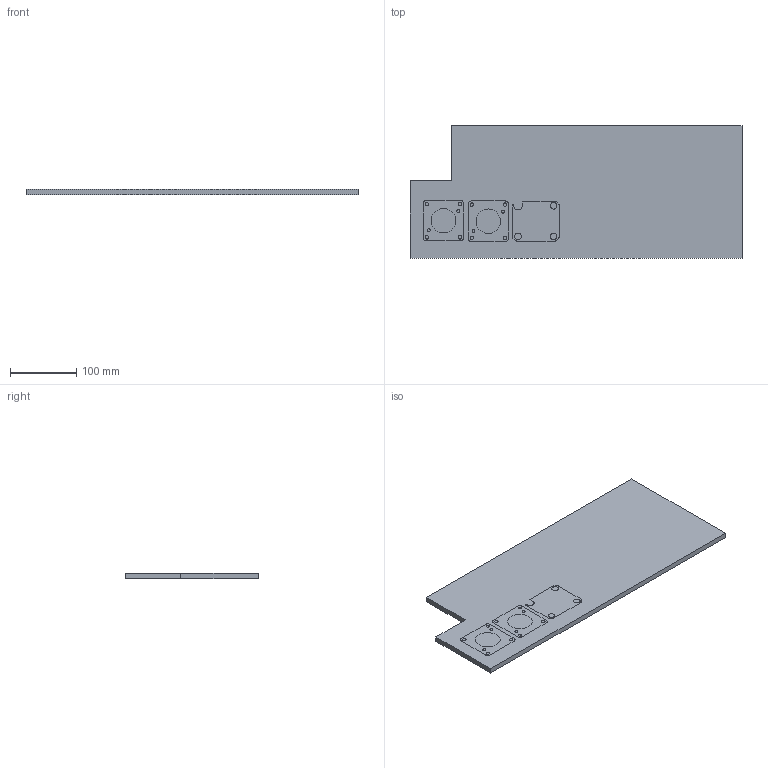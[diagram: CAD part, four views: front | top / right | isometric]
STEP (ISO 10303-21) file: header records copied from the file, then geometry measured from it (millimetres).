
FILE_DESCRIPTION(/* description */ (''),/* implementation_level */ '2;1');
FILE_NAME(/* name */ 'C:/Users/jakob/Documents/GitHub/fabricatable-machines/humphrey-large-format-cnc/humphrey_v3/parts/alu/step/2_motor_plates_z_homeing_plate.step',/* time_stamp */ '2018-08-17T09:08:57+02:00',/* author */ ('jaknil'),/* organization */ (''),/* preprocessor_version */ 'ST-DEVELOPER v17',/* originating_system */ 'Autodesk Translation Framework v7.1.0.215',/* authorisation */ '');
FILE_SCHEMA (('AUTOMOTIVE_DESIGN { 1 0 10303 214 3 1 1 }'));
Length unit declared in the file: millimetre
Products named in the file (7): Y_rail_holder_alu v1; layout; missing motor plate; Motor_spacer nema24; spare stock; Gantry X axis v162_Z-home; Alu_plate
Assembly tree (7 placements, depth 4):
  Y_rail_holder_alu v1
    layout
      missing motor plate
        Motor_spacer nema24  x2
        spare stock
      Gantry X axis v162_Z-home
        Alu_plate
Bounding box: 500 x 200 x 8 mm (x, y, z)
Surface area: 228740.1 mm2
Topology: 4 solids, 4 shells, 76 faces, 194 edges, 129 vertices
Faces by surface type: cylinder 40, plane 36
Full cylindrical faces by diameter (mm): 4.5 x4, 5.2 x8, 5.5 x4, 10 x3, 37 x2
Entity records: 2036 total; most frequent: DIRECTION 353, CARTESIAN_POINT 321, ORIENTED_EDGE 298, EDGE_CURVE 149, AXIS2_PLACEMENT_3D 131, VERTEX_POINT 99, LINE 91, VECTOR 91
